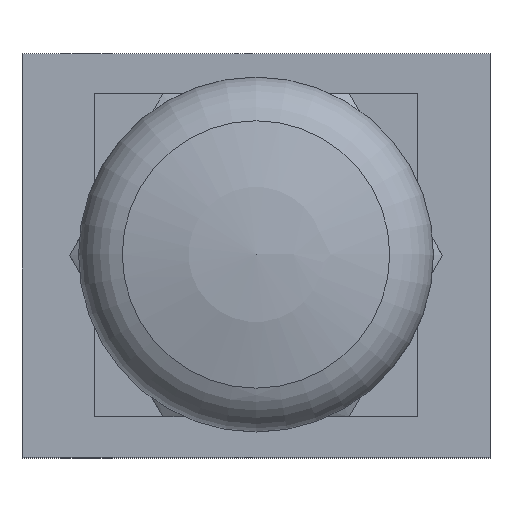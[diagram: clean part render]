
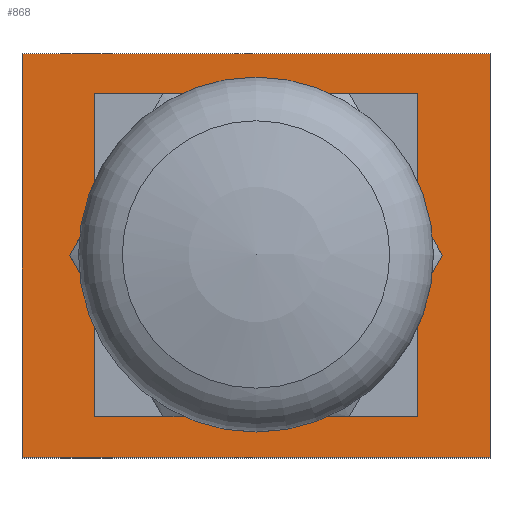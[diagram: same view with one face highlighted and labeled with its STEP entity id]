
A CAD part, top view. The second image highlights one B-rep face of the part: STEP entity #868.
In plain terms, the highlighted planar face has unit normal (0, 0, 1).
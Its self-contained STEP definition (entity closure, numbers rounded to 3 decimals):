
#37=LINE('',#1360,#79);
#41=LINE('',#1368,#83);
#44=LINE('',#1374,#86);
#47=LINE('',#1379,#89);
#66=LINE('',#1489,#108);
#68=LINE('',#1493,#110);
#70=LINE('',#1497,#112);
#72=LINE('',#1500,#114);
#79=VECTOR('',#1044,40.);
#83=VECTOR('',#1050,40.);
#86=VECTOR('',#1055,40.);
#89=VECTOR('',#1060,40.);
#108=VECTOR('',#1185,50.);
#110=VECTOR('',#1189,58.);
#112=VECTOR('',#1193,50.);
#114=VECTOR('',#1197,58.);
#148=PLANE('',#970);
#262=FACE_BOUND('',#411,.T.);
#263=FACE_BOUND('',#412,.T.);
#411=EDGE_LOOP('',(#749,#750,#751,#752));
#412=EDGE_LOOP('',(#753,#754,#755,#756));
#448=VERTEX_POINT('',#1358);
#449=VERTEX_POINT('',#1359);
#452=VERTEX_POINT('',#1367);
#454=VERTEX_POINT('',#1373);
#492=VERTEX_POINT('',#1486);
#493=VERTEX_POINT('',#1488);
#494=VERTEX_POINT('',#1492);
#495=VERTEX_POINT('',#1496);
#527=EDGE_CURVE('',#448,#449,#37,.T.);
#531=EDGE_CURVE('',#449,#452,#41,.T.);
#534=EDGE_CURVE('',#452,#454,#44,.T.);
#537=EDGE_CURVE('',#454,#448,#47,.T.);
#580=EDGE_CURVE('',#493,#492,#66,.T.);
#582=EDGE_CURVE('',#494,#493,#68,.T.);
#584=EDGE_CURVE('',#495,#494,#70,.T.);
#586=EDGE_CURVE('',#492,#495,#72,.T.);
#749=ORIENTED_EDGE('',*,*,#527,.T.);
#750=ORIENTED_EDGE('',*,*,#531,.T.);
#751=ORIENTED_EDGE('',*,*,#534,.T.);
#752=ORIENTED_EDGE('',*,*,#537,.T.);
#753=ORIENTED_EDGE('',*,*,#586,.T.);
#754=ORIENTED_EDGE('',*,*,#584,.T.);
#755=ORIENTED_EDGE('',*,*,#582,.T.);
#756=ORIENTED_EDGE('',*,*,#580,.T.);
#868=ADVANCED_FACE('',(#262,#263),#148,.T.);
#970=AXIS2_PLACEMENT_3D('',#1501,#1198,#1199);
#1044=DIRECTION('',(0.,-1.,0.));
#1050=DIRECTION('',(-1.,0.,0.));
#1055=DIRECTION('',(0.,1.,0.));
#1060=DIRECTION('',(1.,0.,0.));
#1185=DIRECTION('',(0.,-1.,0.));
#1189=DIRECTION('',(-1.,0.,0.));
#1193=DIRECTION('',(0.,1.,0.));
#1197=DIRECTION('',(1.,0.,0.));
#1198=DIRECTION('center_axis',(0.,0.,1.));
#1199=DIRECTION('ref_axis',(1.,0.,0.));
#1358=CARTESIAN_POINT('',(20.,20.,36.5));
#1359=CARTESIAN_POINT('',(20.,-20.,36.5));
#1360=CARTESIAN_POINT('',(20.,-10.,36.5));
#1367=CARTESIAN_POINT('',(-20.,-20.,36.5));
#1368=CARTESIAN_POINT('',(-10.,-20.,36.5));
#1373=CARTESIAN_POINT('',(-20.,20.,36.5));
#1374=CARTESIAN_POINT('',(-20.,10.,36.5));
#1379=CARTESIAN_POINT('',(10.,20.,36.5));
#1486=CARTESIAN_POINT('',(-29.,-25.,36.5));
#1488=CARTESIAN_POINT('',(-29.,25.,36.5));
#1489=CARTESIAN_POINT('',(-29.,25.,36.5));
#1492=CARTESIAN_POINT('',(29.,25.,36.5));
#1493=CARTESIAN_POINT('',(29.,25.,36.5));
#1496=CARTESIAN_POINT('',(29.,-25.,36.5));
#1497=CARTESIAN_POINT('',(29.,-25.,36.5));
#1500=CARTESIAN_POINT('',(-29.,-25.,36.5));
#1501=CARTESIAN_POINT('Origin',(0.,0.,36.5));
